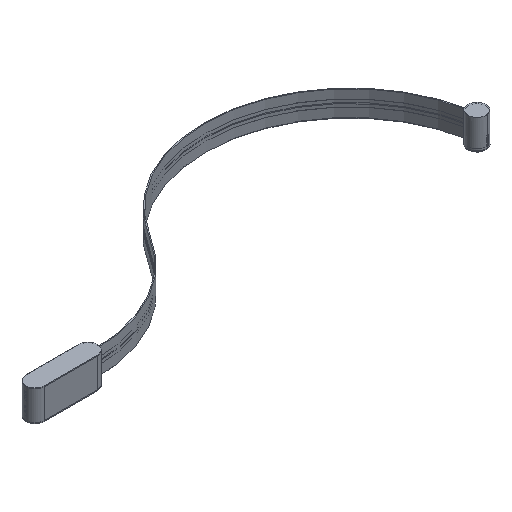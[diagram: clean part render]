
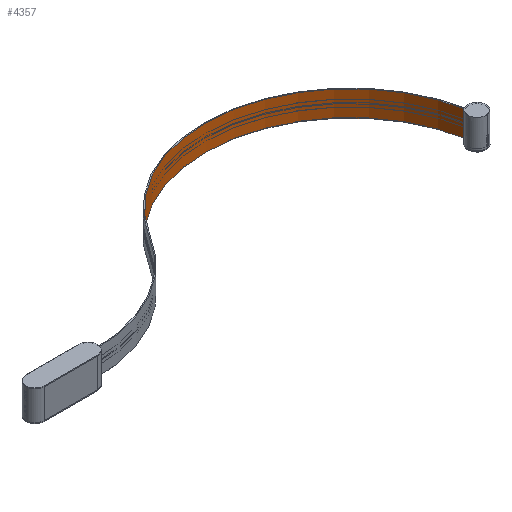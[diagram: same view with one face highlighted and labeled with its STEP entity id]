
A CAD part, isometric view. The second image highlights one B-rep face of the part: STEP entity #4357.
In plain terms, the highlighted cylindrical face has radius 315.448 mm (diameter 630.896 mm), a partial arc.
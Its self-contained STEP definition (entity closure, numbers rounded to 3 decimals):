
#3643=CARTESIAN_POINT('',(556.609,-11.291,4.));
#3644=DIRECTION('',(0.,0.,-1.));
#3645=DIRECTION('',(-0.856,0.517,0.));
#3646=AXIS2_PLACEMENT_3D('',#3643,#3644,#3645);
#3863=DIRECTION('',(0.,0.,-1.));
#3864=VECTOR('',#3863,55.);
#3865=CARTESIAN_POINT('',(867.292,43.333,59.));
#3866=LINE('',#3865,#3864);
#3871=DIRECTION('',(0.,0.,-1.));
#3872=VECTOR('',#3871,55.);
#3873=CARTESIAN_POINT('',(286.66,151.911,59.));
#3874=LINE('',#3873,#3872);
#3875=CARTESIAN_POINT('',(556.609,-11.291,59.));
#3876=DIRECTION('',(0.,0.,-1.));
#3877=DIRECTION('',(-0.856,0.517,0.));
#3878=AXIS2_PLACEMENT_3D('',#3875,#3876,#3877);
#3979=CARTESIAN_POINT('',(286.66,151.911,59.));
#3980=VERTEX_POINT('',#3979);
#3981=CARTESIAN_POINT('',(286.66,151.911,4.));
#3982=VERTEX_POINT('',#3981);
#3999=CARTESIAN_POINT('',(867.292,43.333,59.));
#4000=CARTESIAN_POINT('',(867.292,43.333,4.));
#4001=VERTEX_POINT('',#3999);
#4002=VERTEX_POINT('',#4000);
#4346=CARTESIAN_POINT('',(556.609,-11.291,32.5));
#4347=DIRECTION('',(0.,0.,-1.));
#4348=DIRECTION('',(0.856,-0.517,0.));
#4349=AXIS2_PLACEMENT_3D('',#4346,#4347,#4348);
#4350=CYLINDRICAL_SURFACE('',#4349,315.448);
#4351=ORIENTED_EDGE('',*,*,#4102,.F.);
#4352=ORIENTED_EDGE('',*,*,#4127,.T.);
#4353=ORIENTED_EDGE('',*,*,#4338,.T.);
#4354=ORIENTED_EDGE('',*,*,#4077,.F.);
#4355=EDGE_LOOP('',(#4351,#4352,#4353,#4354));
#4356=FACE_OUTER_BOUND('',#4355,.F.);
#4357=ADVANCED_FACE('',(#4356),#4350,.F.);
#3647=CIRCLE('',#3646,315.448);
#3879=CIRCLE('',#3878,315.448);
#4077=EDGE_CURVE('',#3982,#4002,#3647,.T.);
#4102=EDGE_CURVE('',#3980,#3982,#3874,.T.);
#4127=EDGE_CURVE('',#3980,#4001,#3879,.T.);
#4338=EDGE_CURVE('',#4001,#4002,#3866,.T.);
